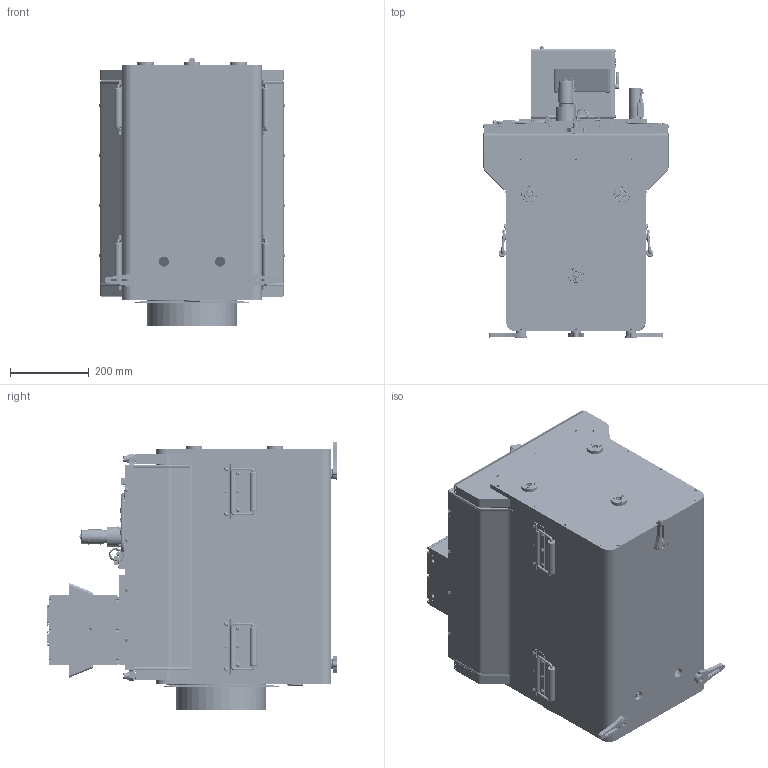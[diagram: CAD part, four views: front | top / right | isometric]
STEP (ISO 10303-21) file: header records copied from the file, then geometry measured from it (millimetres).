
FILE_DESCRIPTION (( 'STEP AP203' ), '1' );
FILE_NAME ('319-000-959_A.STEP', '2014-10-01T17:57:47', ( '' ), ( '' ), 'SwSTEP 2.0', 'SolidWorks 2013', '' );
FILE_SCHEMA (( 'CONFIG_CONTROL_DESIGN' ));
Products named in the file (1): 319-000-959_A
Bounding box: 472.25 x 739.1 x 682.5 mm (x, y, z)
Volume: 51268553.9 mm3; surface area: 6065863.7 mm2
Topology: 325 solids, 329 shells, 16476 faces, 41357 edges, 26454 vertices
Faces by surface type: plane 8012, cylinder 5000, bspline 1628, cone 1205, torus 463, sphere 168
Entity records: 571849 total; most frequent: CARTESIAN_POINT 176703, ORIENTED_EDGE 82118, DIRECTION 79535, EDGE_CURVE 41059, AXIS2_PLACEMENT_3D 27895, VERTEX_POINT 26400, VECTOR 23745, LINE 23745
